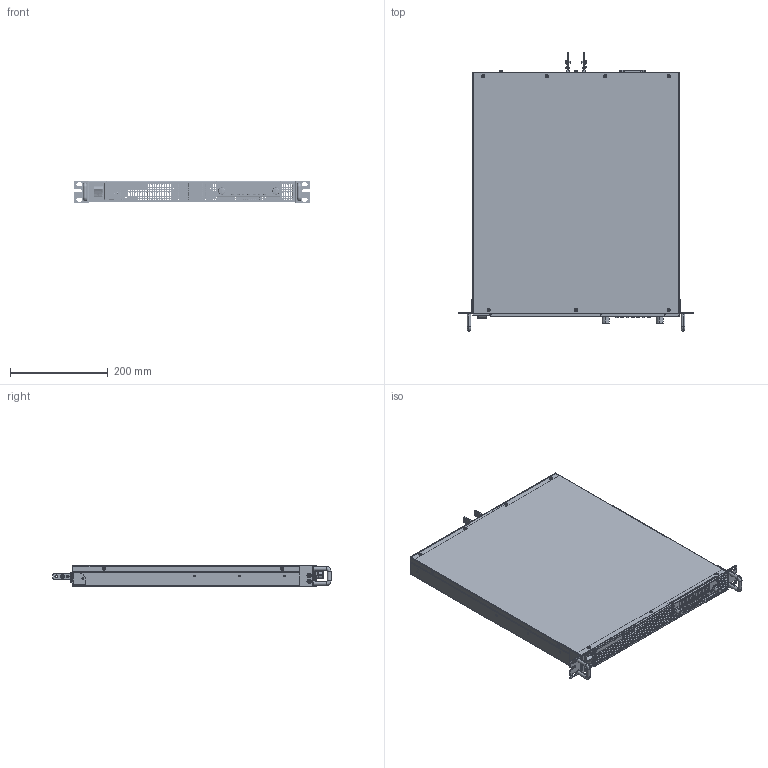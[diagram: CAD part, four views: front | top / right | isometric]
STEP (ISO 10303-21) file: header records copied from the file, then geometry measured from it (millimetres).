
FILE_DESCRIPTION((''),'2;1');
FILE_NAME('CU_RMX-4126_4127','2017-10-27T',('gvillanu'),(''),'CREO PARAMETRIC BY PTC INC, 2015380','CREO PARAMETRIC BY PTC INC, 2015380','');
FILE_SCHEMA(('CONFIG_CONTROL_DESIGN'));
Products named in the file (1): CU_RMX-4126_4127
Bounding box: 482.8 x 570 x 44 mm (x, y, z)
Volume: 16902.1 mm3; surface area: 1071438.8 mm2
Topology: 46 solids, 48 shells, 8143 faces, 23049 edges, 14877 vertices
Faces by surface type: plane 4983, cylinder 2261, extrusion 420, cone 303, bspline 84, torus 48, sphere 44
Entity records: 275783 total; most frequent: CARTESIAN_POINT 62463, ORIENTED_EDGE 45922, DIRECTION 42246, EDGE_CURVE 22961, VECTOR 16952, LINE 16532, VERTEX_POINT 14877, AXIS2_PLACEMENT_3D 12647
